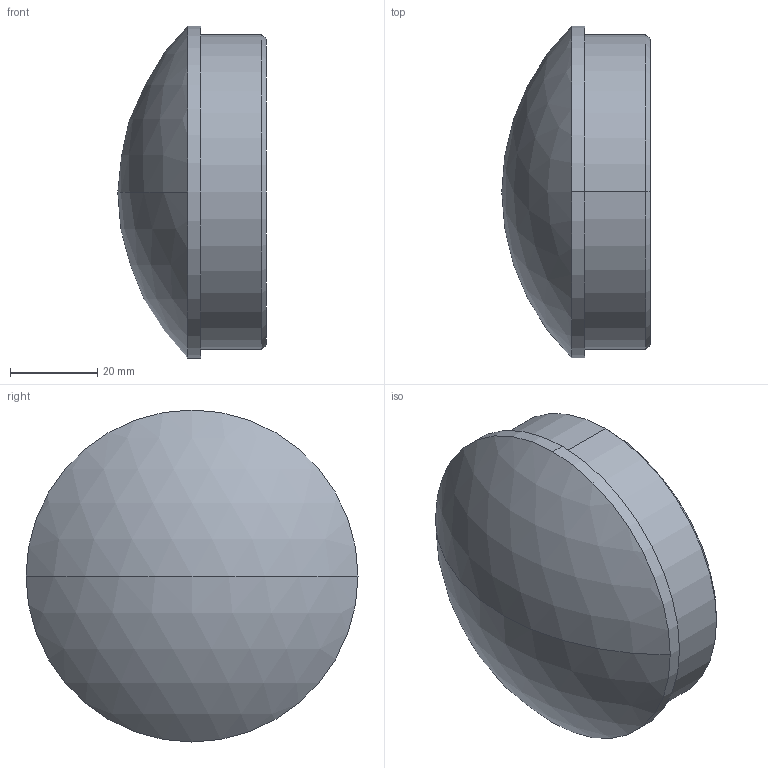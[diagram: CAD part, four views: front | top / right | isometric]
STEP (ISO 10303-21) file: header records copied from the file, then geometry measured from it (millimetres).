
FILE_DESCRIPTION (( 'STEP AP203' ), '1' );
FILE_NAME ('3D_GR1392_DN76.1x2_18380284.STEP', '2024-09-21T10:28:30', ( '' ), ( '' ), 'SwSTEP 2.0', 'SolidWorks 2024', '' );
FILE_SCHEMA (( 'CONFIG_CONTROL_DESIGN' ));
Length unit declared in the file: millimetre
Products named in the file (1): 3D_GR1392_DN76.1x2_18380284
Bounding box: 34 x 76.1 x 76.1 mm (x, y, z)
Volume: 113307.2 mm3; surface area: 13881.9 mm2
Topology: 1 solids, 1 shells, 10 faces, 20 edges, 13 vertices
Faces by surface type: cylinder 4, cone 2, sphere 2, plane 2
Entity records: 347 total; most frequent: DIRECTION 56, CARTESIAN_POINT 44, ORIENTED_EDGE 40, AXIS2_PLACEMENT_3D 25, EDGE_CURVE 20, CIRCLE 14, VERTEX_POINT 13, EDGE_LOOP 11
